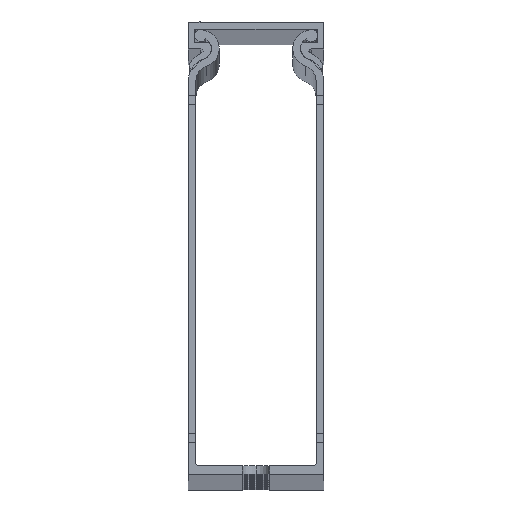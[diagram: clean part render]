
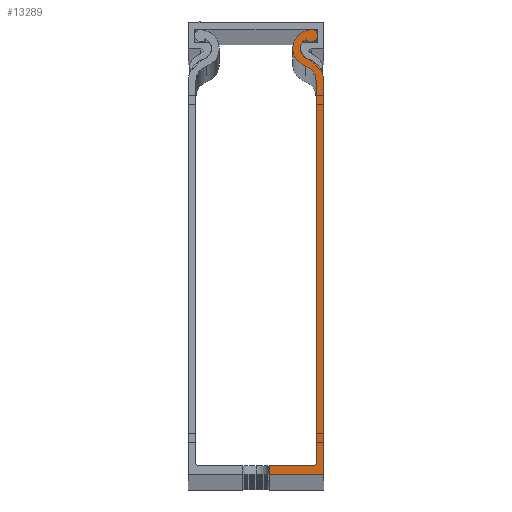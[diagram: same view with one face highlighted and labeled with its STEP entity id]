
A CAD part, top view. The second image highlights one B-rep face of the part: STEP entity #13289.
In plain terms, the highlighted planar face has unit normal (0, 0, 1).
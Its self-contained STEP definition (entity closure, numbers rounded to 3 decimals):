
#364 = AXIS2_PLACEMENT_3D ( 'NONE', #37635, #23657, #28476 ) ;
#635 = CARTESIAN_POINT ( 'NONE',  ( 2580.029, 1295.408, 2000. ) ) ;
#1000 = DIRECTION ( 'NONE',  ( 0., 0., 1. ) ) ;
#1331 = ORIENTED_EDGE ( 'NONE', *, *, #13590, .F. ) ;
#2076 = CARTESIAN_POINT ( 'NONE',  ( 2571.407, 1284.233, 2000. ) ) ;
#2237 = LINE ( 'NONE', #39976, #40278 ) ;
#2575 = VERTEX_POINT ( 'NONE', #29053 ) ;
#2667 = EDGE_CURVE ( 'NONE', #53856, #20903, #36933, .T. ) ;
#3280 = VERTEX_POINT ( 'NONE', #28328 ) ;
#4738 = DIRECTION ( 'NONE',  ( 1., 0., 0. ) ) ;
#6218 = CIRCLE ( 'NONE', #22693, 3.4 ) ;
#6244 = LINE ( 'NONE', #2076, #38885 ) ;
#6553 = DIRECTION ( 'NONE',  ( 0., 0., -1. ) ) ;
#6625 = ORIENTED_EDGE ( 'NONE', *, *, #52563, .T. ) ;
#6677 = CARTESIAN_POINT ( 'NONE',  ( 2581.707, 1284.203, 2000. ) ) ;
#7063 = CARTESIAN_POINT ( 'NONE',  ( 2580.655, 1291.356, 2000. ) ) ;
#9141 = CARTESIAN_POINT ( 'NONE',  ( 2581.207, 1198.956, 2000. ) ) ;
#9326 = CIRCLE ( 'NONE', #52145, 4.1 ) ;
#9691 = ORIENTED_EDGE ( 'NONE', *, *, #2667, .T. ) ;
#9829 = CARTESIAN_POINT ( 'NONE',  ( 2568.407, 1197.056, 2000. ) ) ;
#10576 = DIRECTION ( 'NONE',  ( 0., 0., -1. ) ) ;
#10789 = DIRECTION ( 'NONE',  ( 1., 0., 0. ) ) ;
#10874 = LINE ( 'NONE', #9829, #55176 ) ;
#11678 = DIRECTION ( 'NONE',  ( 0., -1., 0. ) ) ;
#13289 = ADVANCED_FACE ( 'NONE', ( #38134 ), #24414, .T. ) ;
#13590 = EDGE_CURVE ( 'NONE', #2575, #20903, #6244, .T. ) ;
#14663 = ORIENTED_EDGE ( 'NONE', *, *, #55476, .T. ) ;
#14816 = DIRECTION ( 'NONE',  ( 1., 0., 0. ) ) ;
#14889 = CARTESIAN_POINT ( 'NONE',  ( 2558.507, 1284.233, 2000. ) ) ;
#15471 = AXIS2_PLACEMENT_3D ( 'NONE', #20890, #1000, #45085 ) ;
#15550 = CIRCLE ( 'NONE', #28445, 2.4 ) ;
#16673 = ORIENTED_EDGE ( 'NONE', *, *, #28831, .T. ) ;
#17056 = VERTEX_POINT ( 'NONE', #20386 ) ;
#18082 = VERTEX_POINT ( 'NONE', #23267 ) ;
#18291 = EDGE_LOOP ( 'NONE', ( #1331, #27709, #20638, #30196, #33549, #6625, #16673, #28217, #27858, #14663, #60378, #61169, #9691 ) ) ;
#18495 = CARTESIAN_POINT ( 'NONE',  ( 2581.707, 1199.456, 2000. ) ) ;
#19503 = CARTESIAN_POINT ( 'NONE',  ( 2581.707, 1284.203, 2000. ) ) ;
#20386 = CARTESIAN_POINT ( 'NONE',  ( 2579.372, 1287.462, 2000. ) ) ;
#20638 = ORIENTED_EDGE ( 'NONE', *, *, #51162, .T. ) ;
#20890 = CARTESIAN_POINT ( 'NONE',  ( 2580.657, 1294.213, 2000. ) ) ;
#20903 = VERTEX_POINT ( 'NONE', #25931 ) ;
#21025 = CARTESIAN_POINT ( 'NONE',  ( 2578.307, 1284.233, 2000. ) ) ;
#21241 = DIRECTION ( 'NONE',  ( 0., 0., 1. ) ) ;
#21311 = DIRECTION ( 'NONE',  ( 0., 1., 0. ) ) ;
#21646 = CIRCLE ( 'NONE', #364, 2.4 ) ;
#22073 = EDGE_CURVE ( 'NONE', #30186, #30284, #9326, .T. ) ;
#22693 = AXIS2_PLACEMENT_3D ( 'NONE', #41688, #6553, #56438 ) ;
#23267 = CARTESIAN_POINT ( 'NONE',  ( 2579.904, 1289.077, 2000. ) ) ;
#23657 = DIRECTION ( 'NONE',  ( 0., 0., -1. ) ) ;
#24414 = PLANE ( 'NONE',  #48449 ) ;
#24427 = CARTESIAN_POINT ( 'NONE',  ( 2581.207, 1199.456, 2000. ) ) ;
#25488 = AXIS2_PLACEMENT_3D ( 'NONE', #7063, #32242, #42219 ) ;
#25627 = DIRECTION ( 'NONE',  ( 1., 0., 0. ) ) ;
#25836 = VERTEX_POINT ( 'NONE', #27070 ) ;
#25931 = CARTESIAN_POINT ( 'NONE',  ( 2571.407, 1198.956, 2000. ) ) ;
#26063 = AXIS2_PLACEMENT_3D ( 'NONE', #24427, #64141, #4738 ) ;
#26535 = EDGE_CURVE ( 'NONE', #18082, #25836, #21646, .T. ) ;
#27070 = CARTESIAN_POINT ( 'NONE',  ( 2578.255, 1291.356, 2000. ) ) ;
#27709 = ORIENTED_EDGE ( 'NONE', *, *, #55328, .T. ) ;
#27858 = ORIENTED_EDGE ( 'NONE', *, *, #52740, .T. ) ;
#28217 = ORIENTED_EDGE ( 'NONE', *, *, #22073, .T. ) ;
#28328 = CARTESIAN_POINT ( 'NONE',  ( 2583.407, 1284.196, 2000. ) ) ;
#28445 = AXIS2_PLACEMENT_3D ( 'NONE', #36163, #10576, #10789 ) ;
#28476 = DIRECTION ( 'NONE',  ( 1., 0., 0. ) ) ;
#28831 = EDGE_CURVE ( 'NONE', #56356, #30186, #54809, .T. ) ;
#29053 = CARTESIAN_POINT ( 'NONE',  ( 2571.407, 1197.056, 2000. ) ) ;
#29329 = DIRECTION ( 'NONE',  ( 0., 1., 0. ) ) ;
#30186 = VERTEX_POINT ( 'NONE', #635 ) ;
#30196 = ORIENTED_EDGE ( 'NONE', *, *, #47160, .T. ) ;
#30284 = VERTEX_POINT ( 'NONE', #36179 ) ;
#30517 = AXIS2_PLACEMENT_3D ( 'NONE', #21025, #21241, #25627 ) ;
#31921 = EDGE_CURVE ( 'NONE', #64193, #53279, #62933, .T. ) ;
#32242 = DIRECTION ( 'NONE',  ( 0., 0., 1. ) ) ;
#33154 = CIRCLE ( 'NONE', #26063, 0.5 ) ;
#33436 = CIRCLE ( 'NONE', #25488, 4.1 ) ;
#33549 = ORIENTED_EDGE ( 'NONE', *, *, #26535, .T. ) ;
#34150 = EDGE_CURVE ( 'NONE', #53279, #53856, #33154, .T. ) ;
#34898 = DIRECTION ( 'NONE',  ( 1., 0., 0. ) ) ;
#36163 = CARTESIAN_POINT ( 'NONE',  ( 2580.655, 1291.356, 2000. ) ) ;
#36179 = CARTESIAN_POINT ( 'NONE',  ( 2576.555, 1291.356, 2000. ) ) ;
#36933 = LINE ( 'NONE', #54913, #39318 ) ;
#37635 = CARTESIAN_POINT ( 'NONE',  ( 2580.655, 1291.356, 2000. ) ) ;
#38134 = FACE_OUTER_BOUND ( 'NONE', #18291, .T. ) ;
#38293 = DIRECTION ( 'NONE',  ( 0., 0., 1. ) ) ;
#38503 = CARTESIAN_POINT ( 'NONE',  ( 2580.655, 1291.356, 2000. ) ) ;
#38885 = VECTOR ( 'NONE', #21311, 1000. ) ;
#39318 = VECTOR ( 'NONE', #39724, 1000. ) ;
#39724 = DIRECTION ( 'NONE',  ( -1., 0., 0. ) ) ;
#39976 = CARTESIAN_POINT ( 'NONE',  ( 2583.407, 1197.056, 2000. ) ) ;
#40084 = DIRECTION ( 'NONE',  ( 0., 0., 1. ) ) ;
#40278 = VECTOR ( 'NONE', #29329, 1000. ) ;
#41688 = CARTESIAN_POINT ( 'NONE',  ( 2578.307, 1284.233, 2000. ) ) ;
#42219 = DIRECTION ( 'NONE',  ( 1., 0., 0. ) ) ;
#45085 = DIRECTION ( 'NONE',  ( 1., 0., 0. ) ) ;
#47011 = CIRCLE ( 'NONE', #30517, 5.1 ) ;
#47160 = EDGE_CURVE ( 'NONE', #3280, #18082, #47011, .T. ) ;
#48257 = CARTESIAN_POINT ( 'NONE',  ( 2579.527, 1293.474, 2000. ) ) ;
#48449 = AXIS2_PLACEMENT_3D ( 'NONE', #14889, #40084, #34898 ) ;
#51139 = CARTESIAN_POINT ( 'NONE',  ( 2583.407, 1197.056, 2000. ) ) ;
#51162 = EDGE_CURVE ( 'NONE', #57697, #3280, #2237, .T. ) ;
#52145 = AXIS2_PLACEMENT_3D ( 'NONE', #38503, #38293, #62966 ) ;
#52563 = EDGE_CURVE ( 'NONE', #25836, #56356, #15550, .T. ) ;
#52740 = EDGE_CURVE ( 'NONE', #30284, #17056, #33436, .T. ) ;
#53279 = VERTEX_POINT ( 'NONE', #18495 ) ;
#53856 = VERTEX_POINT ( 'NONE', #9141 ) ;
#54809 = CIRCLE ( 'NONE', #15471, 1.35 ) ;
#54913 = CARTESIAN_POINT ( 'NONE',  ( 2568.407, 1198.956, 2000. ) ) ;
#55176 = VECTOR ( 'NONE', #14816, 1000. ) ;
#55328 = EDGE_CURVE ( 'NONE', #2575, #57697, #10874, .T. ) ;
#55476 = EDGE_CURVE ( 'NONE', #17056, #64193, #6218, .T. ) ;
#56356 = VERTEX_POINT ( 'NONE', #48257 ) ;
#56438 = DIRECTION ( 'NONE',  ( 1., 0., 0. ) ) ;
#57697 = VERTEX_POINT ( 'NONE', #51139 ) ;
#60378 = ORIENTED_EDGE ( 'NONE', *, *, #31921, .T. ) ;
#60574 = VECTOR ( 'NONE', #11678, 1000. ) ;
#61169 = ORIENTED_EDGE ( 'NONE', *, *, #34150, .T. ) ;
#62933 = LINE ( 'NONE', #6677, #60574 ) ;
#62966 = DIRECTION ( 'NONE',  ( 1., 0., 0. ) ) ;
#64141 = DIRECTION ( 'NONE',  ( 0., 0., -1. ) ) ;
#64193 = VERTEX_POINT ( 'NONE', #19503 ) ;
